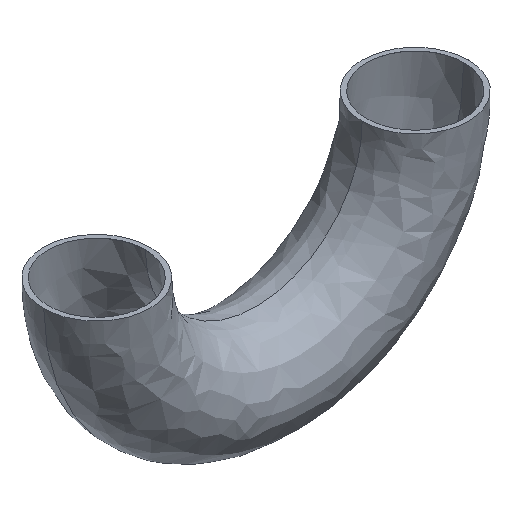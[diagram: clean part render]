
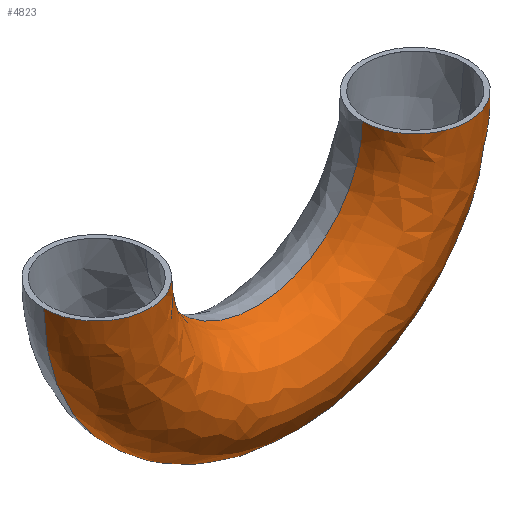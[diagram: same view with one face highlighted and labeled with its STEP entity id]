
A CAD part, isometric view. The second image highlights one B-rep face of the part: STEP entity #4823.
In plain terms, the highlighted free-form (B-spline) face has degree [3, 3] with [4, 4] control points.
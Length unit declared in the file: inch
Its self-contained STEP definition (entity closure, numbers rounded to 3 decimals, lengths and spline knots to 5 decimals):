
#35 = CARTESIAN_POINT ( 'NONE',  ( -0.70972, -1.5, -2.99982 ) ) ;
#338 = CIRCLE ( 'NONE', #3091, 0.75 ) ;
#433 = CARTESIAN_POINT ( 'NONE',  ( 0.75, 0., 0. ) ) ;
#505 = CARTESIAN_POINT ( 'NONE',  ( -5.24982, -1.5, -0.04028 ) ) ;
#679 = CARTESIAN_POINT ( 'NONE',  ( -2.24991, 0., -0.02014 ) ) ;
#950 = CARTESIAN_POINT ( 'NONE',  ( 0.79028, -1.5, -5.99982 ) ) ;
#1120 = DIRECTION ( 'NONE',  ( -1., 0., -0.013 ) ) ;
#1317 = EDGE_LOOP ( 'NONE', ( #2639, #2494, #4876, #4584 ) ) ;
#1346 = DIRECTION ( 'NONE',  ( 0., 0., 1. ) ) ;
#1381 = CARTESIAN_POINT ( 'NONE',  ( -3.74982, 0., -0.04028 ) ) ;
#1399 = CARTESIAN_POINT ( 'NONE',  ( -5.24982, 0., -0.04028 ) ) ;
#1443 = EDGE_CURVE ( 'NONE', #3560, #4735, #338, .T. ) ;
#1556 = CARTESIAN_POINT ( 'NONE',  ( -0.75, 0., 0. ) ) ;
#1612 =( BOUNDED_SURFACE ( )  B_SPLINE_SURFACE ( 3, 3, ( 
 ( #1381, #4043, #4966, #2282 ),
 ( #5411, #2738, #35, #3184 ),
 ( #505, #3640, #950, #4089 ),
 ( #1399, #4528, #1853, #4985 ) ),
 .UNSPECIFIED., .F., .F., .T. ) 
 B_SPLINE_SURFACE_WITH_KNOTS ( ( 4, 4 ),
 ( 4, 4 ),
 ( 0., 1. ),
 ( 0., 1. ),
 .UNSPECIFIED. ) 
 GEOMETRIC_REPRESENTATION_ITEM ( )  RATIONAL_B_SPLINE_SURFACE ( (
 ( 1., 0.333, 0.333, 1.),
 ( 0.333, 0.111, 0.111, 0.333),
 ( 0.333, 0.111, 0.111, 0.333),
 ( 1., 0.333, 0.333, 1.) ) ) 
 REPRESENTATION_ITEM ( '' )  SURFACE ( )  );
#1853 = CARTESIAN_POINT ( 'NONE',  ( 0.79028, 0., -5.99982 ) ) ;
#2124 = AXIS2_PLACEMENT_3D ( 'NONE', #679, #3814, #1120 ) ;
#2282 = CARTESIAN_POINT ( 'NONE',  ( -0.75, 0., 0. ) ) ;
#2287 = DIRECTION ( 'NONE',  ( 0., -1., 0. ) ) ;
#2295 = CIRCLE ( 'NONE', #2124, 1.50005 ) ;
#2413 = AXIS2_PLACEMENT_3D ( 'NONE', #4972, #2287, #5416 ) ;
#2443 = FACE_OUTER_BOUND ( 'NONE', #1317, .T. ) ;
#2460 = AXIS2_PLACEMENT_3D ( 'NONE', #4038, #1346, #4477 ) ;
#2494 = ORIENTED_EDGE ( 'NONE', *, *, #1443, .T. ) ;
#2639 = ORIENTED_EDGE ( 'NONE', *, *, #3746, .F. ) ;
#2738 = CARTESIAN_POINT ( 'NONE',  ( -3.70954, -1.5, -3.0401 ) ) ;
#2757 = EDGE_CURVE ( 'NONE', #3705, #4066, #4684, .T. ) ;
#3091 = AXIS2_PLACEMENT_3D ( 'NONE', #5294, #5240, #5220 ) ;
#3184 = CARTESIAN_POINT ( 'NONE',  ( -0.75, -1.5, 0. ) ) ;
#3360 = CIRCLE ( 'NONE', #2413, 2.99998 ) ;
#3403 = EDGE_CURVE ( 'NONE', #4735, #4066, #3360, .T. ) ;
#3560 = VERTEX_POINT ( 'NONE', #4679 ) ;
#3640 = CARTESIAN_POINT ( 'NONE',  ( -5.20954, -1.5, -6.0401 ) ) ;
#3705 = VERTEX_POINT ( 'NONE', #1556 ) ;
#3746 = EDGE_CURVE ( 'NONE', #3560, #3705, #2295, .T. ) ;
#3814 = DIRECTION ( 'NONE',  ( 0., -1., 0. ) ) ;
#4038 = CARTESIAN_POINT ( 'NONE',  ( 0., 0., 0. ) ) ;
#4043 = CARTESIAN_POINT ( 'NONE',  ( -3.70954, 0., -3.0401 ) ) ;
#4066 = VERTEX_POINT ( 'NONE', #433 ) ;
#4089 = CARTESIAN_POINT ( 'NONE',  ( 0.75, -1.5, 0. ) ) ;
#4477 = DIRECTION ( 'NONE',  ( 1., 0., 0. ) ) ;
#4528 = CARTESIAN_POINT ( 'NONE',  ( -5.20954, 0., -6.0401 ) ) ;
#4584 = ORIENTED_EDGE ( 'NONE', *, *, #2757, .F. ) ;
#4679 = CARTESIAN_POINT ( 'NONE',  ( -3.74982, 0., -0.04028 ) ) ;
#4684 = CIRCLE ( 'NONE', #2460, 0.75 ) ;
#4735 = VERTEX_POINT ( 'NONE', #5781 ) ;
#4823 = ADVANCED_FACE ( 'NONE', ( #2443 ), #1612, .T. ) ;
#4876 = ORIENTED_EDGE ( 'NONE', *, *, #3403, .T. ) ;
#4966 = CARTESIAN_POINT ( 'NONE',  ( -0.70972, 0., -2.99982 ) ) ;
#4972 = CARTESIAN_POINT ( 'NONE',  ( -2.24991, 0., -0.02014 ) ) ;
#4985 = CARTESIAN_POINT ( 'NONE',  ( 0.75, 0., 0. ) ) ;
#5220 = DIRECTION ( 'NONE',  ( -1., 0., 0. ) ) ;
#5240 = DIRECTION ( 'NONE',  ( 0., 0., -1. ) ) ;
#5294 = CARTESIAN_POINT ( 'NONE',  ( -4.49982, 0., -0.04028 ) ) ;
#5411 = CARTESIAN_POINT ( 'NONE',  ( -3.74982, -1.5, -0.04028 ) ) ;
#5416 = DIRECTION ( 'NONE',  ( -1., 0., -0.007 ) ) ;
#5781 = CARTESIAN_POINT ( 'NONE',  ( -5.24982, 0., -0.04028 ) ) ;
